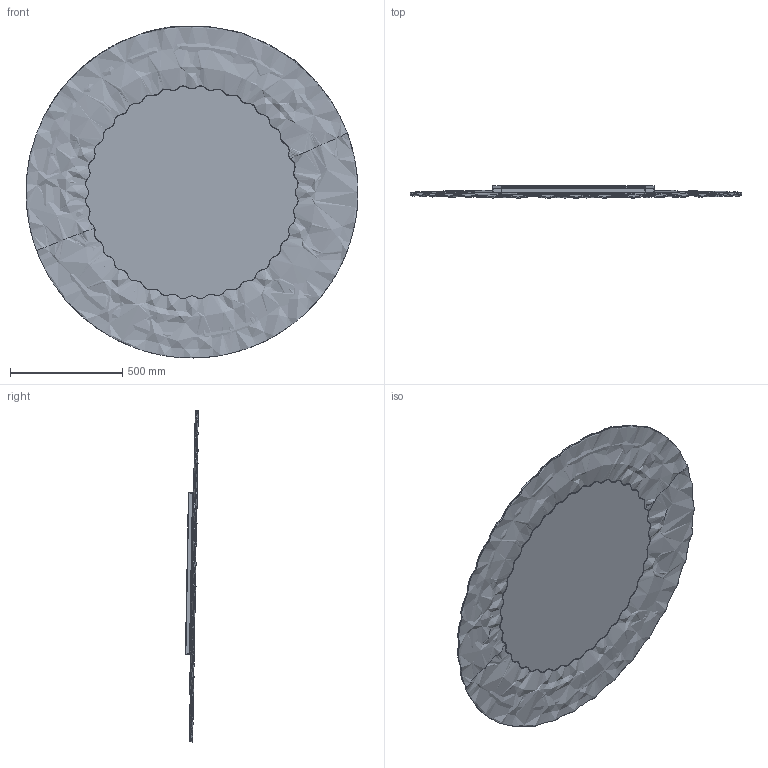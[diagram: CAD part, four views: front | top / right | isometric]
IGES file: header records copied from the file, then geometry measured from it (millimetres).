
Global section: file name: Z:\3D_LQ\POP_rev2021\xWeb\D148\POP_diam148.igs; native system: Rhinoceros ( Aug 11 2021 ); preprocessor: Trout Lake IGES 012 Aug 11 2021; date: 250221.161700; units: millimetre
Bounding box: 1479.82 x 58.9 x 1480.27 mm (x, y, z)
Surface area: 5541040.8 mm2 (no closed solid volume)
Topology: 0 solids, 0 shells, 61 faces, 2606 edges, 2603 vertices
Faces by surface type: bspline 61
